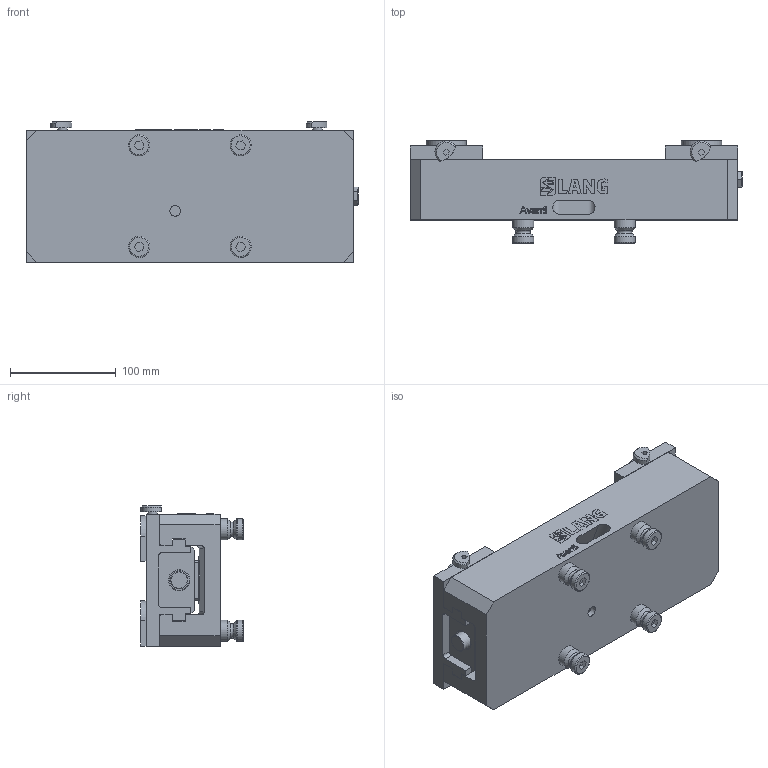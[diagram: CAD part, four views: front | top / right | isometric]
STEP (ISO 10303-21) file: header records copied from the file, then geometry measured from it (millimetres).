
FILE_DESCRIPTION (( 'STEP AP214' ), '1' );
FILE_NAME ('44305-125.STEP', '2020-02-13T14:28:11', ( '' ), ( '' ), 'SwSTEP 2.0', 'SolidWorks 2019', '' );
FILE_SCHEMA (( 'AUTOMOTIVE_DESIGN' ));
Length unit declared in the file: millimetre
Products named in the file (3): 44305-125; 44251-125; Avanti_44305-125
Assembly tree (3 placements, depth 2):
  44305-125
    Avanti_44305-125
    44251-125  x2
Bounding box: 314.02 x 97.01 x 133.12 mm (x, y, z)
Volume: 1929376.9 mm3; surface area: 276594.8 mm2
Topology: 38 solids, 38 shells, 756 faces, 1900 edges, 1247 vertices
Faces by surface type: plane 565, bspline 98, cylinder 60, cone 21, torus 12
Full cylindrical faces by diameter (mm): 8.5 x4, 9 x2, 10 x1, 16 x8, 16.5 x1, 20 x12
Entity records: 30527 total; most frequent: CARTESIAN_POINT 6815, ORIENTED_EDGE 3336, DIRECTION 2750, EDGE_CURVE 1668, VECTOR 1342, LINE 1342, VERTEX_POINT 1129, EDGE_LOOP 789
